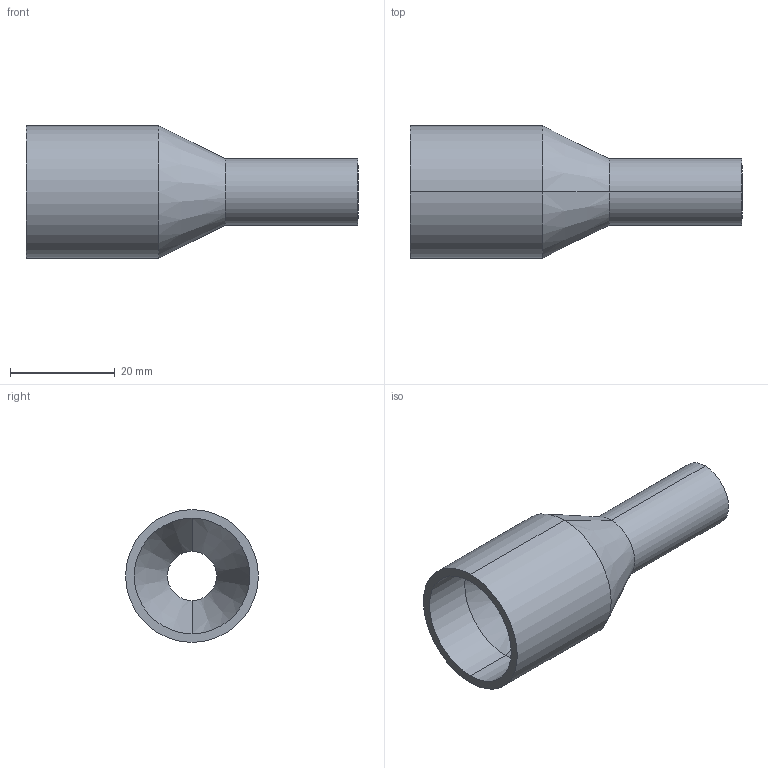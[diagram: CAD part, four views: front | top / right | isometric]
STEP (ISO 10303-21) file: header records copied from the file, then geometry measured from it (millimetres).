
FILE_DESCRIPTION (( 'STEP AP214' ), '1' );
FILE_NAME ('TE31SWW6L1.0x.5-...STEP', '2016-05-29T09:31:30', ( 'eran' ), ( '' ), 'SwSTEP 2.0', 'SolidWorks 2016', '' );
FILE_SCHEMA (( 'AUTOMOTIVE_DESIGN' ));
Length unit declared in the file: millimetre
Products named in the file (1): TE31SWW6L1.0x.5-..
Bounding box: 63.5 x 25.4 x 25.4 mm (x, y, z)
Volume: 10541.9 mm3; surface area: 6672.5 mm2
Topology: 1 solids, 1 shells, 14 faces, 28 edges, 16 vertices
Faces by surface type: cylinder 8, cone 4, plane 2
Entity records: 402 total; most frequent: DIRECTION 74, CARTESIAN_POINT 59, ORIENTED_EDGE 56, AXIS2_PLACEMENT_3D 31, EDGE_CURVE 28, VERTEX_POINT 16, CIRCLE 16, EDGE_LOOP 16
